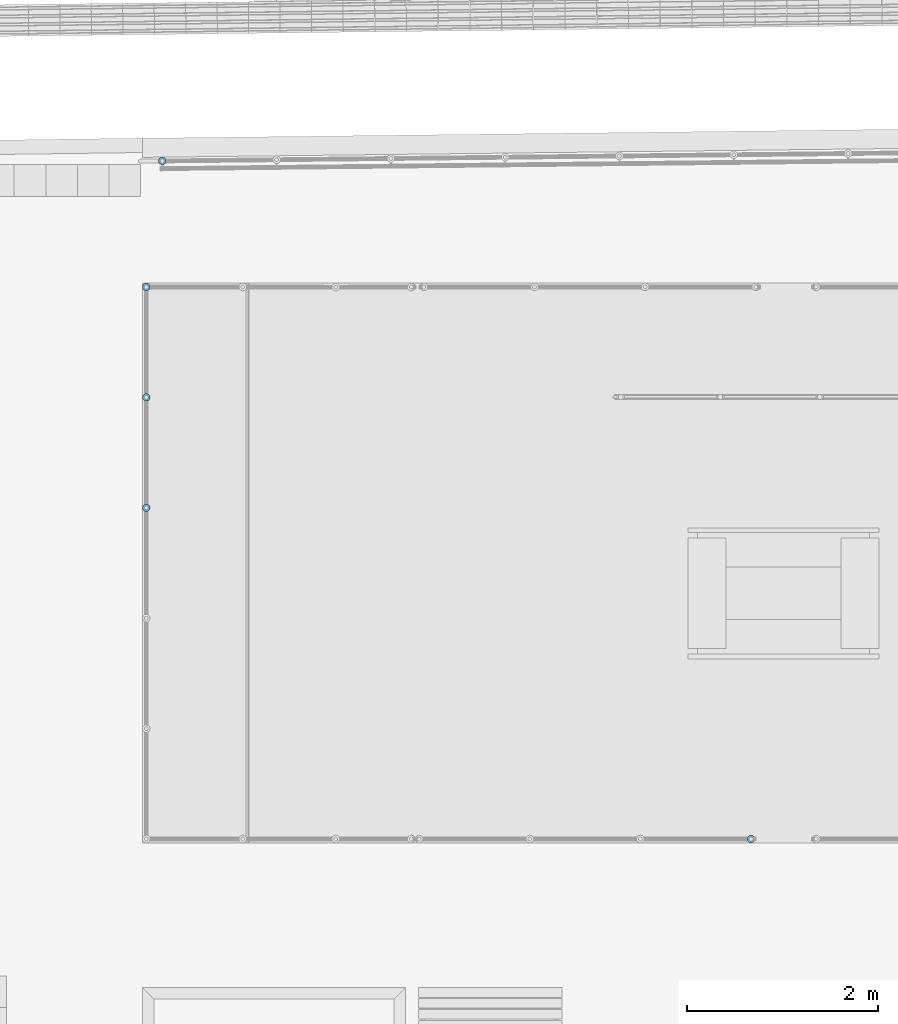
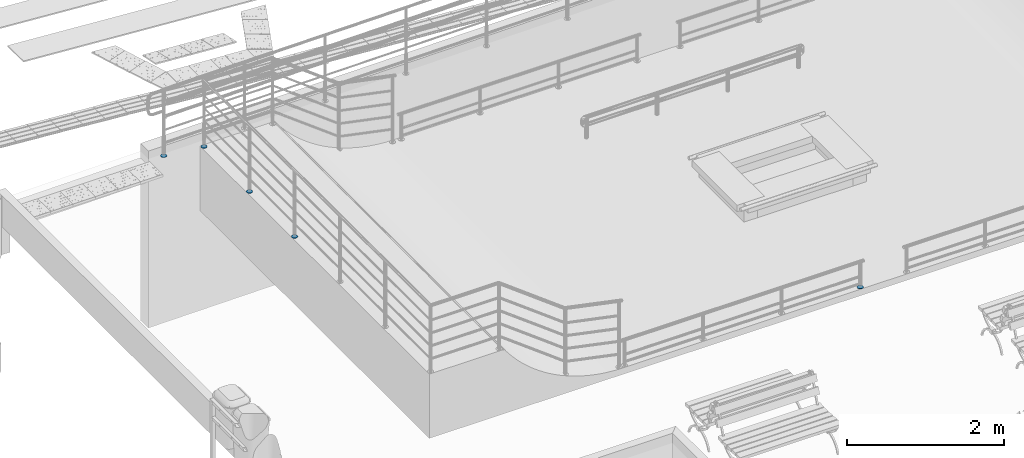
# One storey, part 95 of 237: 5 building element parts, 3 elements without a shape of their own.
"""IFC2X3 building model written with IfcOpenShell, lengths in millimetres."""

from ifc_helpers import new_model, entity, si_unit, converted_unit, derived_unit, money_unit, direction, frame, origin_with_axes, place, context, subcontext, project, spatial, faceted_brep, material, type_object, element, aggregate, save


model = new_model("IFC2X3")

# Units and contexts
model_context = context("Model", 3, precision=0.01, world=origin_with_axes(), true_north=direction((0.0, 1.0)))
body_context = subcontext(model_context, "Body", "Model", "MODEL_VIEW")
ifc_project = project(units=[si_unit("LENGTHUNIT", "METRE", prefix="MILLI"), si_unit("AREAUNIT", "SQUARE_METRE"), si_unit("VOLUMEUNIT", "CUBIC_METRE"), converted_unit("PLANEANGLEUNIT", "DEGREE", entity("IfcPlaneAngleMeasure", 0.0174532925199), si_unit("PLANEANGLEUNIT", "RADIAN"), dimensions=[0, 0, 0, 0, 0, 0, 0]), money_unit("USD"), converted_unit("TIMEUNIT", "Year", entity("IfcTimeMeasure", 31556926.0), si_unit("TIMEUNIT", "SECOND"), dimensions=[0, 0, 1, 0, 0, 0, 0]), si_unit("MASSUNIT", "GRAM", prefix="KILO"), si_unit("THERMODYNAMICTEMPERATUREUNIT", "DEGREE_CELSIUS"), si_unit("LUMINOUSINTENSITYUNIT", "LUMEN"), si_unit("ENERGYUNIT", "JOULE", prefix="MEGA"), derived_unit("THERMALCONDUCTANCEUNIT", [(si_unit("POWERUNIT", "WATT"), 1), (si_unit("LENGTHUNIT", "METRE"), -1), (si_unit("THERMODYNAMICTEMPERATUREUNIT", "KELVIN"), -1)]), derived_unit("SPECIFICHEATCAPACITYUNIT", [(si_unit("ENERGYUNIT", "JOULE"), 1), (si_unit("MASSUNIT", "GRAM", prefix="KILO"), -1), (si_unit("THERMODYNAMICTEMPERATUREUNIT", "KELVIN"), -1)]), derived_unit("MASSDENSITYUNIT", [(si_unit("MASSUNIT", "GRAM", prefix="KILO"), 1), (si_unit("VOLUMEUNIT", "CUBIC_METRE"), -1)])], contexts=[model_context])

# Site, building, storey
site_placement = place(None, origin_with_axes())
site = spatial("IfcSite", under=ifc_project, at=site_placement, Name="Local", CompositionType="ELEMENT")
building_placement = place(site_placement, origin_with_axes())
building = spatial("IfcBuilding", under=site, at=building_placement, Name="Construção", CompositionType="ELEMENT")
storey_placement = place(building_placement, origin_with_axes())
storey = spatial("IfcBuildingStorey", under=building, at=storey_placement, Name="Pavimento Térreo", CompositionType="ELEMENT", Elevation=0.0)

# Railing, building element part
railing_type = type_object("IfcRailingType", Name="Tipo de Guarda-Corpo", PredefinedType="NOTDEFINED")
railing_1_placement = place(storey_placement, frame((70326.6870103, 28675.2458388, -1357.10819655), z_axis=(0.0, 0.0, 1.0), x_axis=(1.0, 0.0, 0.0)))
railing_1 = element("IfcRailing", 1, at=railing_1_placement, inside=storey, type_object=railing_type, Name="Guarda-Corpo - 004", PredefinedType="NOTDEFINED")
ifc_material = material(Name="Alumínio")
building_element_part_1_placement = place(railing_1_placement, origin_with_axes())
building_element_part_1 = element("IfcBuildingElementPart", 2, at=building_element_part_1_placement, material=ifc_material, Name="Alumínio", context=body_context, shape_type="Brep", body=[
    faceted_brep([(-19097.5225698, 6495.64355587, 0.0), (-19096.8393717, 6488.70464884, 0.0), (-19096.8393717, 6488.70464884, 5.0), (-19097.5225698, 6495.64355587, 5.0), (-19096.99046, 6502.59568141, 0.0), (-19095.2592102, 6509.34978865, 0.0), (-19092.3814236, 6515.70065744, 0.0), (-19088.4445402, 6521.45531987, 0.0), (-19083.5681803, 6526.43892342, 0.0), (-19077.9005096, 6530.50004382, 0.0), (-19071.6137374, 6533.51528599, 0.0), (-19064.898884, 6535.39303331, 0.0), (-19057.959977, 6536.07623139, 0.0), (-19051.0078514, 6535.54412159, 0.0), (-19044.2537442, 6533.8128718, 0.0), (-19037.9028754, 6530.93508517, 0.0), (-19032.148213, 6526.9982018, 0.0), (-19027.1646094, 6522.12184188, 0.0), (-19023.103489, 6516.45417116, 0.0), (-19020.0882469, 6510.16739893, 0.0), (-19018.2104995, 6503.45254559, 0.0), (-19017.5273015, 6496.51363856, 0.0), (-19018.0594113, 6489.56151302, 0.0), (-19019.7906611, 6482.80740579, 0.0), (-19022.6684477, 6476.45653699, 0.0), (-19026.6053311, 6470.70187456, 0.0), (-19031.481691, 6465.71827101, 0.0), (-19037.1493617, 6461.65715061, 0.0), (-19043.4361339, 6458.64190844, 0.0), (-19050.1509873, 6456.76416112, 0.0), (-19057.0898943, 6456.08096305, 0.0), (-19064.0420198, 6456.61307285, 0.0), (-19070.7961271, 6458.34432264, 0.0), (-19077.1469959, 6461.22210926, 0.0), (-19082.9016583, 6465.15899264, 0.0), (-19087.8852618, 6470.03535255, 0.0), (-19091.9463822, 6475.70302328, 0.0), (-19094.9616244, 6481.9897955, 0.0), (-19094.9616244, 6481.9897955, 5.0), (-19091.9463822, 6475.70302328, 5.0), (-19087.8852618, 6470.03535255, 5.0), (-19082.9016583, 6465.15899264, 5.0), (-19077.1469959, 6461.22210926, 5.0), (-19070.7961271, 6458.34432264, 5.0), (-19064.0420198, 6456.61307285, 5.0), (-19057.0898943, 6456.08096305, 5.0), (-19050.1509873, 6456.76416112, 5.0), (-19043.4361339, 6458.64190844, 5.0), (-19037.1493617, 6461.65715061, 5.0), (-19031.481691, 6465.71827101, 5.0), (-19026.6053311, 6470.70187456, 5.0), (-19022.6684477, 6476.45653699, 5.0), (-19019.7906611, 6482.80740579, 5.0), (-19018.0594113, 6489.56151302, 5.0), (-19017.5273015, 6496.51363856, 5.0), (-19018.2104995, 6503.45254559, 5.0), (-19020.0882469, 6510.16739893, 5.0), (-19023.103489, 6516.45417116, 5.0), (-19027.1646094, 6522.12184188, 5.0), (-19032.148213, 6526.9982018, 5.0), (-19037.9028754, 6530.93508517, 5.0), (-19044.2537442, 6533.8128718, 5.0), (-19051.0078514, 6535.54412159, 5.0), (-19057.959977, 6536.07623139, 5.0), (-19064.898884, 6535.39303331, 5.0), (-19071.6137374, 6533.51528599, 5.0), (-19077.9005096, 6530.50004382, 5.0), (-19083.5681803, 6526.43892342, 5.0), (-19088.4445402, 6521.45531987, 5.0), (-19092.3814236, 6515.70065744, 5.0), (-19095.2592102, 6509.34978865, 5.0), (-19096.99046, 6502.59568141, 5.0)], [[[0, 1, 2, 3]], [[0, 4, 5, 6, 7, 8, 9, 10, 11, 12, 13, 14, 15, 16, 17, 18, 19, 20, 21, 22, 23, 24, 25, 26, 27, 28, 29, 30, 31, 32, 33, 34, 35, 36, 37, 1]], [[1, 37, 38, 2]], [[3, 2, 38, 39, 40, 41, 42, 43, 44, 45, 46, 47, 48, 49, 50, 51, 52, 53, 54, 55, 56, 57, 58, 59, 60, 61, 62, 63, 64, 65, 66, 67, 68, 69, 70, 71]], [[4, 0, 3, 71]], [[5, 4, 71, 70]], [[6, 5, 70, 69]], [[7, 6, 69, 68]], [[8, 7, 68, 67]], [[9, 8, 67, 66]], [[10, 9, 66, 65]], [[11, 10, 65, 64]], [[12, 11, 64, 63]], [[13, 12, 63, 62]], [[14, 13, 62, 61]], [[15, 14, 61, 60]], [[16, 15, 60, 59]], [[17, 16, 59, 58]], [[18, 17, 58, 57]], [[19, 18, 57, 56]], [[20, 19, 56, 55]], [[21, 20, 55, 54]], [[22, 21, 54, 53]], [[23, 22, 53, 52]], [[24, 23, 52, 51]], [[25, 24, 51, 50]], [[26, 25, 50, 49]], [[27, 26, 49, 48]], [[28, 27, 48, 47]], [[29, 28, 47, 46]], [[30, 29, 46, 45]], [[31, 30, 45, 44]], [[32, 31, 44, 43]], [[33, 32, 43, 42]], [[34, 33, 42, 41]], [[35, 34, 41, 40]], [[36, 35, 40, 39]], [[37, 36, 39, 38]]]),
])
aggregate(railing_1, [building_element_part_1])

# Railing, building element parts
railing_2_placement = place(storey_placement, frame((53912.4440926, 33356.4497128, -1263.04952679), z_axis=(0.0, 0.0, 1.0), x_axis=(1.0, 0.0, 0.0)))
railing_2 = element("IfcRailing", 3, at=railing_2_placement, inside=storey, type_object=railing_type, Name="Guarda-Corpo - 001", PredefinedType="NOTDEFINED")
building_element_part_2_placement = place(railing_2_placement, origin_with_axes())
building_element_part_2 = element("IfcBuildingElementPart", 4, at=building_element_part_2_placement, material=ifc_material, Name="Alumínio", context=body_context, shape_type="Brep", body=[
    faceted_brep([(-2849.99998938, 498.486530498, 905.941330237), (-2849.39736051, 491.540162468, 905.941330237), (-2849.39736051, 491.540162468, 910.941330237), (-2849.99998938, 498.486530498, 910.941330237), (-2849.38723882, 505.432012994, 905.941330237), (-2847.57772694, 512.165574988, 905.941330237), (-2844.62643484, 518.482620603, 905.941330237), (-2840.62303605, 524.191209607, 905.941330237), (-2835.68917179, 529.117889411, 905.941330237), (-2829.97475505, 533.112965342, 905.941330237), (-2823.65341549, 536.05504904, 905.941330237), (-2816.91722381, 537.85474678, 905.941330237), (-2809.97085578, 538.457375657, 905.941330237), (-2803.02537328, 537.844625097, 905.941330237), (-2796.29181129, 536.035113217, 905.941330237), (-2789.97476567, 533.083821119, 905.941330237), (-2784.26617667, 529.08042232, 905.941330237), (-2779.33949686, 524.146558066, 905.941330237), (-2775.34442093, 518.432141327, 905.941330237), (-2772.40233723, 512.110801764, 905.941330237), (-2770.60263949, 505.37461008, 905.941330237), (-2770.00001062, 498.42824205, 905.941330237), (-2770.61276118, 491.482759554, 905.941330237), (-2772.42227306, 484.74919756, 905.941330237), (-2775.37356516, 478.432151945, 905.941330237), (-2779.37696395, 472.723562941, 905.941330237), (-2784.31082821, 467.796883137, 905.941330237), (-2790.02524495, 463.801807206, 905.941330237), (-2796.34658451, 460.859723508, 905.941330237), (-2803.08277619, 459.060025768, 905.941330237), (-2810.02914422, 458.457396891, 905.941330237), (-2816.97462672, 459.070147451, 905.941330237), (-2823.70818871, 460.879659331, 905.941330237), (-2830.02523433, 463.830951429, 905.941330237), (-2835.73382333, 467.834350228, 905.941330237), (-2840.66050314, 472.768214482, 905.941330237), (-2844.65557907, 478.482631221, 905.941330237), (-2847.59766277, 484.803970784, 905.941330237), (-2847.59766277, 484.803970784, 910.941330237), (-2844.65557907, 478.482631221, 910.941330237), (-2840.66050314, 472.768214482, 910.941330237), (-2835.73382333, 467.834350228, 910.941330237), (-2830.02523433, 463.830951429, 910.941330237), (-2823.70818871, 460.879659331, 910.941330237), (-2816.97462672, 459.070147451, 910.941330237), (-2810.02914422, 458.457396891, 910.941330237), (-2803.08277619, 459.060025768, 910.941330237), (-2796.34658451, 460.859723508, 910.941330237), (-2790.02524495, 463.801807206, 910.941330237), (-2784.31082821, 467.796883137, 910.941330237), (-2779.37696395, 472.723562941, 910.941330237), (-2775.37356516, 478.432151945, 910.941330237), (-2772.42227306, 484.74919756, 910.941330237), (-2770.61276118, 491.482759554, 910.941330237), (-2770.00001062, 498.42824205, 910.941330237), (-2770.60263949, 505.37461008, 910.941330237), (-2772.40233723, 512.110801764, 910.941330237), (-2775.34442093, 518.432141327, 910.941330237), (-2779.33949686, 524.146558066, 910.941330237), (-2784.26617667, 529.08042232, 910.941330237), (-2789.97476567, 533.083821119, 910.941330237), (-2796.29181129, 536.035113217, 910.941330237), (-2803.02537328, 537.844625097, 910.941330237), (-2809.97085578, 538.457375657, 910.941330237), (-2816.91722381, 537.85474678, 910.941330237), (-2823.65341549, 536.05504904, 910.941330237), (-2829.97475505, 533.112965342, 910.941330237), (-2835.68917179, 529.117889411, 910.941330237), (-2840.62303605, 524.191209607, 910.941330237), (-2844.62643484, 518.482620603, 910.941330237), (-2847.57772694, 512.165574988, 910.941330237), (-2849.38723882, 505.432012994, 910.941330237)], [[[0, 1, 2, 3]], [[0, 4, 5, 6, 7, 8, 9, 10, 11, 12, 13, 14, 15, 16, 17, 18, 19, 20, 21, 22, 23, 24, 25, 26, 27, 28, 29, 30, 31, 32, 33, 34, 35, 36, 37, 1]], [[1, 37, 38, 2]], [[3, 2, 38, 39, 40, 41, 42, 43, 44, 45, 46, 47, 48, 49, 50, 51, 52, 53, 54, 55, 56, 57, 58, 59, 60, 61, 62, 63, 64, 65, 66, 67, 68, 69, 70, 71]], [[4, 0, 3, 71]], [[5, 4, 71, 70]], [[6, 5, 70, 69]], [[7, 6, 69, 68]], [[8, 7, 68, 67]], [[9, 8, 67, 66]], [[10, 9, 66, 65]], [[11, 10, 65, 64]], [[12, 11, 64, 63]], [[13, 12, 63, 62]], [[14, 13, 62, 61]], [[15, 14, 61, 60]], [[16, 15, 60, 59]], [[17, 16, 59, 58]], [[18, 17, 58, 57]], [[19, 18, 57, 56]], [[20, 19, 56, 55]], [[21, 20, 55, 54]], [[22, 21, 54, 53]], [[23, 22, 53, 52]], [[24, 23, 52, 51]], [[25, 24, 51, 50]], [[26, 25, 50, 49]], [[27, 26, 49, 48]], [[28, 27, 48, 47]], [[29, 28, 47, 46]], [[30, 29, 46, 45]], [[31, 30, 45, 44]], [[32, 31, 44, 43]], [[33, 32, 43, 42]], [[34, 33, 42, 41]], [[35, 34, 41, 40]], [[36, 35, 40, 39]], [[37, 36, 39, 38]]]),
])
building_element_part_3_placement = place(railing_2_placement, origin_with_axes())
building_element_part_3 = element("IfcBuildingElementPart", 5, at=building_element_part_3_placement, material=ifc_material, Name="Alumínio", context=body_context, shape_type="Brep", body=[
    faceted_brep([(-2810.0, -695.536782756, 905.941330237), (-2803.05407289, -694.929092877, 905.941330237), (-2803.05407289, -694.929092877, 910.941330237), (-2810.0, -695.536782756, 910.941330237), (-2816.94592711, -694.929092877, 905.941330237), (-2823.68080573, -693.124487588, 905.941330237), (-2830.0, -690.177798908, 905.941330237), (-2835.71150439, -686.178560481, 905.941330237), (-2840.64177772, -681.248287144, 905.941330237), (-2844.64101615, -675.536782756, 905.941330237), (-2847.58770483, -669.217588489, 905.941330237), (-2849.39231012, -662.482709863, 905.941330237), (-2850.0, -655.536782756, 905.941330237), (-2849.39231012, -648.59085565, 905.941330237), (-2847.58770483, -641.855977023, 905.941330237), (-2844.64101615, -635.536782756, 905.941330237), (-2840.64177772, -629.825278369, 905.941330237), (-2835.71150439, -624.895005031, 905.941330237), (-2830.0, -620.895766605, 905.941330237), (-2823.68080573, -617.949077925, 905.941330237), (-2816.94592711, -616.144472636, 905.941330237), (-2810.0, -615.536782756, 905.941330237), (-2803.05407289, -616.144472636, 905.941330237), (-2796.31919427, -617.949077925, 905.941330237), (-2790.0, -620.895766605, 905.941330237), (-2784.28849561, -624.895005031, 905.941330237), (-2779.35822228, -629.825278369, 905.941330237), (-2775.35898385, -635.536782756, 905.941330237), (-2772.41229517, -641.855977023, 905.941330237), (-2770.60768988, -648.59085565, 905.941330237), (-2770.0, -655.536782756, 905.941330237), (-2770.60768988, -662.482709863, 905.941330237), (-2772.41229517, -669.217588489, 905.941330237), (-2775.35898385, -675.536782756, 905.941330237), (-2779.35822228, -681.248287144, 905.941330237), (-2784.28849561, -686.178560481, 905.941330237), (-2790.0, -690.177798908, 905.941330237), (-2796.31919427, -693.124487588, 905.941330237), (-2796.31919427, -693.124487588, 910.941330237), (-2790.0, -690.177798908, 910.941330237), (-2784.28849561, -686.178560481, 910.941330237), (-2779.35822228, -681.248287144, 910.941330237), (-2775.35898385, -675.536782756, 910.941330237), (-2772.41229517, -669.217588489, 910.941330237), (-2770.60768988, -662.482709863, 910.941330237), (-2770.0, -655.536782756, 910.941330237), (-2770.60768988, -648.59085565, 910.941330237), (-2772.41229517, -641.855977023, 910.941330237), (-2775.35898385, -635.536782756, 910.941330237), (-2779.35822228, -629.825278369, 910.941330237), (-2784.28849561, -624.895005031, 910.941330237), (-2790.0, -620.895766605, 910.941330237), (-2796.31919427, -617.949077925, 910.941330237), (-2803.05407289, -616.144472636, 910.941330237), (-2810.0, -615.536782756, 910.941330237), (-2816.94592711, -616.144472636, 910.941330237), (-2823.68080573, -617.949077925, 910.941330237), (-2830.0, -620.895766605, 910.941330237), (-2835.71150439, -624.895005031, 910.941330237), (-2840.64177772, -629.825278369, 910.941330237), (-2844.64101615, -635.536782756, 910.941330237), (-2847.58770483, -641.855977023, 910.941330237), (-2849.39231012, -648.59085565, 910.941330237), (-2850.0, -655.536782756, 910.941330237), (-2849.39231012, -662.482709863, 910.941330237), (-2847.58770483, -669.217588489, 910.941330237), (-2844.64101615, -675.536782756, 910.941330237), (-2840.64177772, -681.248287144, 910.941330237), (-2835.71150439, -686.178560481, 910.941330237), (-2830.0, -690.177798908, 910.941330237), (-2823.68080573, -693.124487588, 910.941330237), (-2816.94592711, -694.929092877, 910.941330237)], [[[0, 1, 2, 3]], [[0, 4, 5, 6, 7, 8, 9, 10, 11, 12, 13, 14, 15, 16, 17, 18, 19, 20, 21, 22, 23, 24, 25, 26, 27, 28, 29, 30, 31, 32, 33, 34, 35, 36, 37, 1]], [[1, 37, 38, 2]], [[3, 2, 38, 39, 40, 41, 42, 43, 44, 45, 46, 47, 48, 49, 50, 51, 52, 53, 54, 55, 56, 57, 58, 59, 60, 61, 62, 63, 64, 65, 66, 67, 68, 69, 70, 71]], [[4, 0, 3, 71]], [[5, 4, 71, 70]], [[6, 5, 70, 69]], [[7, 6, 69, 68]], [[8, 7, 68, 67]], [[9, 8, 67, 66]], [[10, 9, 66, 65]], [[11, 10, 65, 64]], [[12, 11, 64, 63]], [[13, 12, 63, 62]], [[14, 13, 62, 61]], [[15, 14, 61, 60]], [[16, 15, 60, 59]], [[17, 16, 59, 58]], [[18, 17, 58, 57]], [[19, 18, 57, 56]], [[20, 19, 56, 55]], [[21, 20, 55, 54]], [[22, 21, 54, 53]], [[23, 22, 53, 52]], [[24, 23, 52, 51]], [[25, 24, 51, 50]], [[26, 25, 50, 49]], [[27, 26, 49, 48]], [[28, 27, 48, 47]], [[29, 28, 47, 46]], [[30, 29, 46, 45]], [[31, 30, 45, 44]], [[32, 31, 44, 43]], [[33, 32, 43, 42]], [[34, 33, 42, 41]], [[35, 34, 41, 40]], [[36, 35, 40, 39]], [[37, 36, 39, 38]]]),
])
building_element_part_4_placement = place(railing_2_placement, origin_with_axes())
building_element_part_4 = element("IfcBuildingElementPart", 6, at=building_element_part_4_placement, material=ifc_material, Name="Alumínio", context=body_context, shape_type="Brep", body=[
    faceted_brep([(-2810.0, -1849.53095179, 905.941330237), (-2803.05407289, -1848.92326191, 905.941330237), (-2803.05407289, -1848.92326191, 910.941330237), (-2810.0, -1849.53095179, 910.941330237), (-2816.94592711, -1848.92326191, 905.941330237), (-2823.68080573, -1847.11865662, 905.941330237), (-2830.0, -1844.17196794, 905.941330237), (-2835.71150439, -1840.17272951, 905.941330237), (-2840.64177772, -1835.24245617, 905.941330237), (-2844.64101615, -1829.53095179, 905.941330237), (-2847.58770483, -1823.21175752, 905.941330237), (-2849.39231012, -1816.47687889, 905.941330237), (-2850.0, -1809.53095179, 905.941330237), (-2849.39231012, -1802.58502468, 905.941330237), (-2847.58770483, -1795.85014605, 905.941330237), (-2844.64101615, -1789.53095179, 905.941330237), (-2840.64177772, -1783.8194474, 905.941330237), (-2835.71150439, -1778.88917406, 905.941330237), (-2830.0, -1774.88993564, 905.941330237), (-2823.68080573, -1771.94324696, 905.941330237), (-2816.94592711, -1770.13864167, 905.941330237), (-2810.0, -1769.53095179, 905.941330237), (-2803.05407289, -1770.13864167, 905.941330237), (-2796.31919427, -1771.94324696, 905.941330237), (-2790.0, -1774.88993564, 905.941330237), (-2784.28849561, -1778.88917406, 905.941330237), (-2779.35822228, -1783.8194474, 905.941330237), (-2775.35898385, -1789.53095179, 905.941330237), (-2772.41229517, -1795.85014605, 905.941330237), (-2770.60768988, -1802.58502468, 905.941330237), (-2770.0, -1809.53095179, 905.941330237), (-2770.60768988, -1816.47687889, 905.941330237), (-2772.41229517, -1823.21175752, 905.941330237), (-2775.35898385, -1829.53095179, 905.941330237), (-2779.35822228, -1835.24245617, 905.941330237), (-2784.28849561, -1840.17272951, 905.941330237), (-2790.0, -1844.17196794, 905.941330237), (-2796.31919427, -1847.11865662, 905.941330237), (-2796.31919427, -1847.11865662, 910.941330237), (-2790.0, -1844.17196794, 910.941330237), (-2784.28849561, -1840.17272951, 910.941330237), (-2779.35822228, -1835.24245617, 910.941330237), (-2775.35898385, -1829.53095179, 910.941330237), (-2772.41229517, -1823.21175752, 910.941330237), (-2770.60768988, -1816.47687889, 910.941330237), (-2770.0, -1809.53095179, 910.941330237), (-2770.60768988, -1802.58502468, 910.941330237), (-2772.41229517, -1795.85014605, 910.941330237), (-2775.35898385, -1789.53095179, 910.941330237), (-2779.35822228, -1783.8194474, 910.941330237), (-2784.28849561, -1778.88917406, 910.941330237), (-2790.0, -1774.88993564, 910.941330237), (-2796.31919427, -1771.94324696, 910.941330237), (-2803.05407289, -1770.13864167, 910.941330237), (-2810.0, -1769.53095179, 910.941330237), (-2816.94592711, -1770.13864167, 910.941330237), (-2823.68080573, -1771.94324696, 910.941330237), (-2830.0, -1774.88993564, 910.941330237), (-2835.71150439, -1778.88917406, 910.941330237), (-2840.64177772, -1783.8194474, 910.941330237), (-2844.64101615, -1789.53095179, 910.941330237), (-2847.58770483, -1795.85014605, 910.941330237), (-2849.39231012, -1802.58502468, 910.941330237), (-2850.0, -1809.53095179, 910.941330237), (-2849.39231012, -1816.47687889, 910.941330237), (-2847.58770483, -1823.21175752, 910.941330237), (-2844.64101615, -1829.53095179, 910.941330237), (-2840.64177772, -1835.24245617, 910.941330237), (-2835.71150439, -1840.17272951, 910.941330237), (-2830.0, -1844.17196794, 910.941330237), (-2823.68080573, -1847.11865662, 910.941330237), (-2816.94592711, -1848.92326191, 910.941330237)], [[[0, 1, 2, 3]], [[0, 4, 5, 6, 7, 8, 9, 10, 11, 12, 13, 14, 15, 16, 17, 18, 19, 20, 21, 22, 23, 24, 25, 26, 27, 28, 29, 30, 31, 32, 33, 34, 35, 36, 37, 1]], [[1, 37, 38, 2]], [[3, 2, 38, 39, 40, 41, 42, 43, 44, 45, 46, 47, 48, 49, 50, 51, 52, 53, 54, 55, 56, 57, 58, 59, 60, 61, 62, 63, 64, 65, 66, 67, 68, 69, 70, 71]], [[4, 0, 3, 71]], [[5, 4, 71, 70]], [[6, 5, 70, 69]], [[7, 6, 69, 68]], [[8, 7, 68, 67]], [[9, 8, 67, 66]], [[10, 9, 66, 65]], [[11, 10, 65, 64]], [[12, 11, 64, 63]], [[13, 12, 63, 62]], [[14, 13, 62, 61]], [[15, 14, 61, 60]], [[16, 15, 60, 59]], [[17, 16, 59, 58]], [[18, 17, 58, 57]], [[19, 18, 57, 56]], [[20, 19, 56, 55]], [[21, 20, 55, 54]], [[22, 21, 54, 53]], [[23, 22, 53, 52]], [[24, 23, 52, 51]], [[25, 24, 51, 50]], [[26, 25, 50, 49]], [[27, 26, 49, 48]], [[28, 27, 48, 47]], [[29, 28, 47, 46]], [[30, 29, 46, 45]], [[31, 30, 45, 44]], [[32, 31, 44, 43]], [[33, 32, 43, 42]], [[34, 33, 42, 41]], [[35, 34, 41, 40]], [[36, 35, 40, 39]], [[37, 36, 39, 38]]]),
])
aggregate(railing_2, [building_element_part_2, building_element_part_3, building_element_part_4])

# Railing, building element part
railing_3_placement = place(storey_placement, frame((53912.4440926, 28006.4497128, -1887.10818411), z_axis=(0.0, 0.0, 1.0), x_axis=(1.0, 0.0, 0.0)))
railing_3 = element("IfcRailing", 7, at=railing_3_placement, inside=storey, type_object=railing_type, Name="Guarda-Corpo - 002", PredefinedType="NOTDEFINED")
building_element_part_5_placement = place(railing_3_placement, origin_with_axes())
building_element_part_5 = element("IfcBuildingElementPart", 8, at=building_element_part_5_placement, material=ifc_material, Name="Alumínio", context=body_context, shape_type="Brep", body=[
    faceted_brep([(3550.0, 78.4865411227, 629.999988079), (3549.39231012, 85.4324682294, 629.999988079), (3549.39231012, 85.4324682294, 634.999988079), (3550.0, 78.4865411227, 634.999988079), (3549.39231012, 71.540614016, 629.999988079), (3547.58770483, 64.8057353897, 629.999988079), (3544.64101615, 58.4865411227, 629.999988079), (3540.64177772, 52.7750367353, 629.999988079), (3535.71150439, 47.844763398, 629.999988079), (3530.0, 43.8455249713, 629.999988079), (3523.68080573, 40.8988362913, 629.999988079), (3516.94592711, 39.0942310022, 629.999988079), (3510.0, 38.4865411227, 629.999988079), (3503.05407289, 39.0942310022, 629.999988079), (3496.31919427, 40.8988362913, 629.999988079), (3490.0, 43.8455249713, 629.999988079), (3484.28849561, 47.844763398, 629.999988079), (3479.35822228, 52.7750367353, 629.999988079), (3475.35898385, 58.4865411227, 629.999988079), (3472.41229517, 64.8057353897, 629.999988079), (3470.60768988, 71.540614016, 629.999988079), (3470.0, 78.4865411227, 629.999988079), (3470.60768988, 85.4324682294, 629.999988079), (3472.41229517, 92.1673468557, 629.999988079), (3475.35898385, 98.4865411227, 629.999988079), (3479.35822228, 104.19804551, 629.999988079), (3484.28849561, 109.128318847, 629.999988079), (3490.0, 113.127557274, 629.999988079), (3496.31919427, 116.074245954, 629.999988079), (3503.05407289, 117.878851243, 629.999988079), (3510.0, 118.486541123, 629.999988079), (3516.94592711, 117.878851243, 629.999988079), (3523.68080573, 116.074245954, 629.999988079), (3530.0, 113.127557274, 629.999988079), (3535.71150439, 109.128318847, 629.999988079), (3540.64177772, 104.19804551, 629.999988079), (3544.64101615, 98.4865411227, 629.999988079), (3547.58770483, 92.1673468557, 629.999988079), (3547.58770483, 92.1673468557, 634.999988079), (3544.64101615, 98.4865411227, 634.999988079), (3540.64177772, 104.19804551, 634.999988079), (3535.71150439, 109.128318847, 634.999988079), (3530.0, 113.127557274, 634.999988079), (3523.68080573, 116.074245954, 634.999988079), (3516.94592711, 117.878851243, 634.999988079), (3510.0, 118.486541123, 634.999988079), (3503.05407289, 117.878851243, 634.999988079), (3496.31919427, 116.074245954, 634.999988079), (3490.0, 113.127557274, 634.999988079), (3484.28849561, 109.128318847, 634.999988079), (3479.35822228, 104.19804551, 634.999988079), (3475.35898385, 98.4865411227, 634.999988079), (3472.41229517, 92.1673468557, 634.999988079), (3470.60768988, 85.4324682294, 634.999988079), (3470.0, 78.4865411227, 634.999988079), (3470.60768988, 71.540614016, 634.999988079), (3472.41229517, 64.8057353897, 634.999988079), (3475.35898385, 58.4865411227, 634.999988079), (3479.35822228, 52.7750367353, 634.999988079), (3484.28849561, 47.844763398, 634.999988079), (3490.0, 43.8455249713, 634.999988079), (3496.31919427, 40.8988362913, 634.999988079), (3503.05407289, 39.0942310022, 634.999988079), (3510.0, 38.4865411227, 634.999988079), (3516.94592711, 39.0942310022, 634.999988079), (3523.68080573, 40.8988362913, 634.999988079), (3530.0, 43.8455249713, 634.999988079), (3535.71150439, 47.844763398, 634.999988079), (3540.64177772, 52.7750367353, 634.999988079), (3544.64101615, 58.4865411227, 634.999988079), (3547.58770483, 64.8057353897, 634.999988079), (3549.39231012, 71.540614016, 634.999988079)], [[[0, 1, 2, 3]], [[0, 4, 5, 6, 7, 8, 9, 10, 11, 12, 13, 14, 15, 16, 17, 18, 19, 20, 21, 22, 23, 24, 25, 26, 27, 28, 29, 30, 31, 32, 33, 34, 35, 36, 37, 1]], [[1, 37, 38, 2]], [[3, 2, 38, 39, 40, 41, 42, 43, 44, 45, 46, 47, 48, 49, 50, 51, 52, 53, 54, 55, 56, 57, 58, 59, 60, 61, 62, 63, 64, 65, 66, 67, 68, 69, 70, 71]], [[4, 0, 3, 71]], [[5, 4, 71, 70]], [[6, 5, 70, 69]], [[7, 6, 69, 68]], [[8, 7, 68, 67]], [[9, 8, 67, 66]], [[10, 9, 66, 65]], [[11, 10, 65, 64]], [[12, 11, 64, 63]], [[13, 12, 63, 62]], [[14, 13, 62, 61]], [[15, 14, 61, 60]], [[16, 15, 60, 59]], [[17, 16, 59, 58]], [[18, 17, 58, 57]], [[19, 18, 57, 56]], [[20, 19, 56, 55]], [[21, 20, 55, 54]], [[22, 21, 54, 53]], [[23, 22, 53, 52]], [[24, 23, 52, 51]], [[25, 24, 51, 50]], [[26, 25, 50, 49]], [[27, 26, 49, 48]], [[28, 27, 48, 47]], [[29, 28, 47, 46]], [[30, 29, 46, 45]], [[31, 30, 45, 44]], [[32, 31, 44, 43]], [[33, 32, 43, 42]], [[34, 33, 42, 41]], [[35, 34, 41, 40]], [[36, 35, 40, 39]], [[37, 36, 39, 38]]]),
])
aggregate(railing_3, [building_element_part_5])

save(model, "model.ifc")
